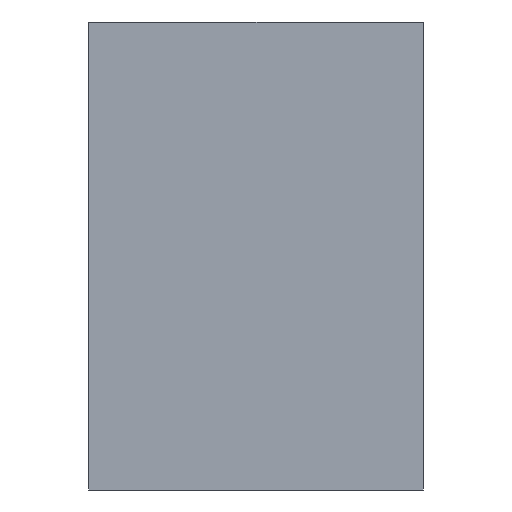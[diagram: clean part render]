
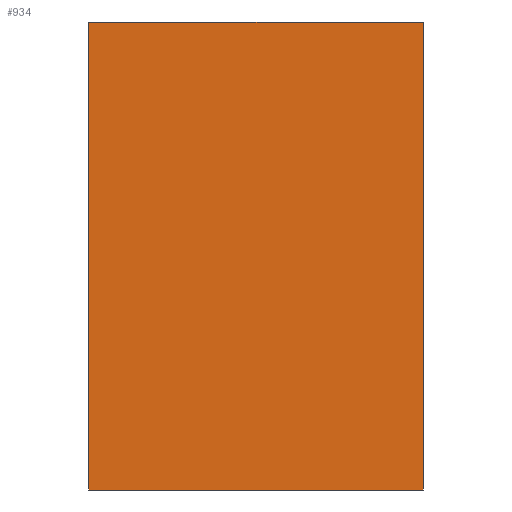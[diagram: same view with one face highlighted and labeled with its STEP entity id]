
A CAD part, left-side view. The second image highlights one B-rep face of the part: STEP entity #934.
In plain terms, the highlighted planar face has unit normal (-1, 0, 0).
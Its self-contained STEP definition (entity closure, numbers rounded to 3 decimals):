
#9 = EDGE_CURVE ( 'NONE', #1840, #1836, #98, .T. ) ;
#54 = CARTESIAN_POINT ( 'NONE',  ( -50., 50., 2140. ) ) ;
#98 = LINE ( 'NONE', #2710, #3704 ) ;
#142 = DIRECTION ( 'NONE',  ( 0., 1., 0. ) ) ;
#320 = CARTESIAN_POINT ( 'NONE',  ( -50., -50., 2140. ) ) ;
#467 = CARTESIAN_POINT ( 'NONE',  ( -50., 50., 2290. ) ) ;
#666 = LINE ( 'NONE', #2985, #2953 ) ;
#891 = DIRECTION ( 'NONE',  ( 0., -1., 0. ) ) ;
#934 = ADVANCED_FACE ( 'NONE', ( #2078 ), #2061, .F. ) ;
#948 = CARTESIAN_POINT ( 'NONE',  ( -50., 50., 2290. ) ) ;
#950 = DIRECTION ( 'NONE',  ( 0., 0., 1. ) ) ;
#1054 = VECTOR ( 'NONE', #142, 1000. ) ;
#1092 = ORIENTED_EDGE ( 'NONE', *, *, #9, .F. ) ;
#1293 = CARTESIAN_POINT ( 'NONE',  ( -50., -50., 2150. ) ) ;
#1744 = ORIENTED_EDGE ( 'NONE', *, *, #1965, .T. ) ;
#1789 = DIRECTION ( 'NONE',  ( 0., 1., 0. ) ) ;
#1836 = VERTEX_POINT ( 'NONE', #948 ) ;
#1840 = VERTEX_POINT ( 'NONE', #2064 ) ;
#1965 = EDGE_CURVE ( 'NONE', #1840, #3587, #666, .T. ) ;
#1994 = EDGE_CURVE ( 'NONE', #3587, #3483, #2954, .T. ) ;
#2061 = PLANE ( 'NONE',  #3149 ) ;
#2064 = CARTESIAN_POINT ( 'NONE',  ( -50., 50., 2150. ) ) ;
#2078 = FACE_OUTER_BOUND ( 'NONE', #3441, .T. ) ;
#2165 = ORIENTED_EDGE ( 'NONE', *, *, #1994, .T. ) ;
#2465 = ORIENTED_EDGE ( 'NONE', *, *, #3229, .T. ) ;
#2710 = CARTESIAN_POINT ( 'NONE',  ( -50., 50., 2140. ) ) ;
#2773 = LINE ( 'NONE', #467, #1054 ) ;
#2953 = VECTOR ( 'NONE', #891, 1000. ) ;
#2954 = LINE ( 'NONE', #320, #3537 ) ;
#2985 = CARTESIAN_POINT ( 'NONE',  ( -50., 50., 2150. ) ) ;
#3149 = AXIS2_PLACEMENT_3D ( 'NONE', #54, #3223, #1789 ) ;
#3214 = CARTESIAN_POINT ( 'NONE',  ( -50., -50., 2290. ) ) ;
#3223 = DIRECTION ( 'NONE',  ( 1., 0., 0. ) ) ;
#3229 = EDGE_CURVE ( 'NONE', #3483, #1836, #2773, .T. ) ;
#3441 = EDGE_LOOP ( 'NONE', ( #2165, #2465, #1092, #1744 ) ) ;
#3483 = VERTEX_POINT ( 'NONE', #3214 ) ;
#3484 = DIRECTION ( 'NONE',  ( 0., 0., 1. ) ) ;
#3537 = VECTOR ( 'NONE', #3484, 1000. ) ;
#3587 = VERTEX_POINT ( 'NONE', #1293 ) ;
#3704 = VECTOR ( 'NONE', #950, 1000. ) ;
